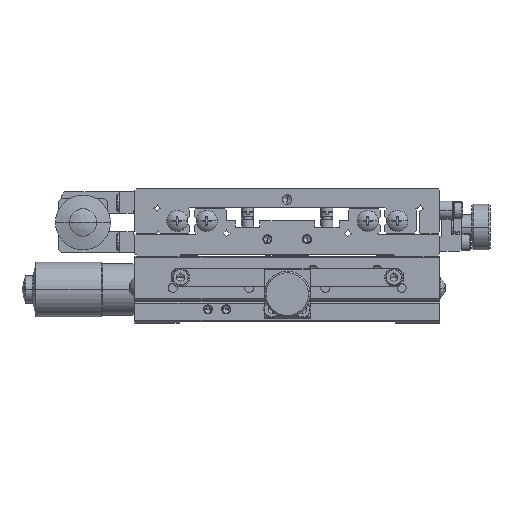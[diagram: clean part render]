
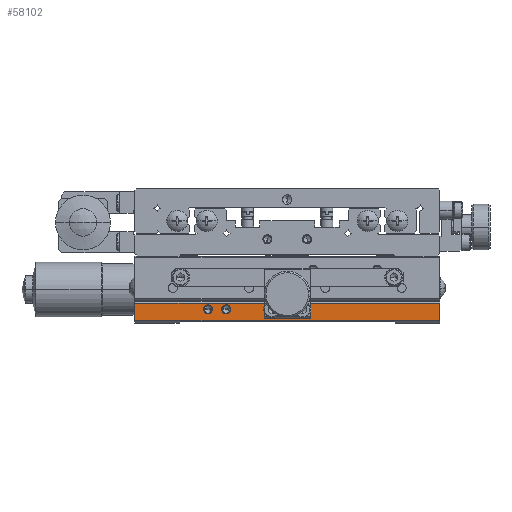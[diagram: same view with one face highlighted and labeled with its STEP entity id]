
A CAD part, left-side view. The second image highlights one B-rep face of the part: STEP entity #58102.
In plain terms, the highlighted planar face has unit normal (-1, 0, 0).
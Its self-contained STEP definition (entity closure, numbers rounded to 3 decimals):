
#19910 = ORIENTED_EDGE ( 'NONE', *, *, #55658, .F. ) ;
#20021 = ORIENTED_EDGE ( 'NONE', *, *, #20025, .F. ) ;
#20025 = EDGE_CURVE ( 'NONE', #55596, #55496, #50650, .T. ) ;
#20029 = ORIENTED_EDGE ( 'NONE', *, *, #55594, .F. ) ;
#20035 = EDGE_LOOP ( 'NONE', ( #20039, #19910 ) ) ;
#20039 = ORIENTED_EDGE ( 'NONE', *, *, #20048, .F. ) ;
#20048 = EDGE_CURVE ( 'NONE', #55659, #55656, #50718, .T. ) ;
#50642 = DIRECTION ( 'NONE',  ( 0., 1., 0. ) ) ;
#50645 = DIRECTION ( 'NONE',  ( -1., 0., 0. ) ) ;
#50647 = CARTESIAN_POINT ( 'NONE',  ( -50., 20., 4.5 ) ) ;
#50649 = AXIS2_PLACEMENT_3D ( 'NONE', #50647, #50645, #50642 ) ;
#50650 = CIRCLE ( 'NONE', #50649, 1.5 ) ;
#50714 = DIRECTION ( 'NONE',  ( 0., 1., 0. ) ) ;
#50715 = DIRECTION ( 'NONE',  ( -1., 0., 0. ) ) ;
#50716 = CARTESIAN_POINT ( 'NONE',  ( -50., 26., 4.5 ) ) ;
#50717 = AXIS2_PLACEMENT_3D ( 'NONE', #50716, #50715, #50714 ) ;
#50718 = CIRCLE ( 'NONE', #50717, 1.5 ) ;
#53214 = EDGE_LOOP ( 'NONE', ( #20021, #20029 ) ) ;
#55496 = VERTEX_POINT ( 'NONE', #104297 ) ;
#55594 = EDGE_CURVE ( 'NONE', #55496, #55596, #104427, .T. ) ;
#55596 = VERTEX_POINT ( 'NONE', #104422 ) ;
#55656 = VERTEX_POINT ( 'NONE', #104538 ) ;
#55658 = EDGE_CURVE ( 'NONE', #55656, #55659, #104532, .T. ) ;
#55659 = VERTEX_POINT ( 'NONE', #104527 ) ;
#57398 = VERTEX_POINT ( 'NONE', #106464 ) ;
#57401 = EDGE_CURVE ( 'NONE', #57398, #57405, #106463, .T. ) ;
#57405 = VERTEX_POINT ( 'NONE', #106457 ) ;
#58063 = EDGE_CURVE ( 'NONE', #58111, #58110, #107081, .T. ) ;
#58065 = ORIENTED_EDGE ( 'NONE', *, *, #58067, .T. ) ;
#58067 = EDGE_CURVE ( 'NONE', #58111, #58087, #107074, .T. ) ;
#58070 = ORIENTED_EDGE ( 'NONE', *, *, #58086, .F. ) ;
#58072 = ORIENTED_EDGE ( 'NONE', *, *, #58073, .T. ) ;
#58073 = EDGE_CURVE ( 'NONE', #58083, #58074, #107070, .T. ) ;
#58074 = VERTEX_POINT ( 'NONE', #107066 ) ;
#58075 = ORIENTED_EDGE ( 'NONE', *, *, #58076, .T. ) ;
#58076 = EDGE_CURVE ( 'NONE', #58074, #57405, #107065, .T. ) ;
#58078 = ORIENTED_EDGE ( 'NONE', *, *, #57401, .F. ) ;
#58080 = ORIENTED_EDGE ( 'NONE', *, *, #58098, .F. ) ;
#58083 = VERTEX_POINT ( 'NONE', #107061 ) ;
#58086 = EDGE_CURVE ( 'NONE', #58083, #58087, #107060, .T. ) ;
#58087 = VERTEX_POINT ( 'NONE', #107056 ) ;
#58093 = VERTEX_POINT ( 'NONE', #107114 ) ;
#58098 = EDGE_CURVE ( 'NONE', #58093, #57398, #107108, .T. ) ;
#58102 = ADVANCED_FACE ( 'NONE', ( #107103, #107102, #107101 ), #107100, .T. ) ;
#58105 = EDGE_LOOP ( 'NONE', ( #58107, #58210, #58065, #58070, #58072, #58075, #58078, #58080 ) ) ;
#58107 = ORIENTED_EDGE ( 'NONE', *, *, #58109, .F. ) ;
#58109 = EDGE_CURVE ( 'NONE', #58110, #58093, #107094, .T. ) ;
#58110 = VERTEX_POINT ( 'NONE', #107090 ) ;
#58111 = VERTEX_POINT ( 'NONE', #107089 ) ;
#58210 = ORIENTED_EDGE ( 'NONE', *, *, #58063, .F. ) ;
#104297 = CARTESIAN_POINT ( 'NONE',  ( -50., 18.5, 4.5 ) ) ;
#104422 = CARTESIAN_POINT ( 'NONE',  ( -50., 21.5, 4.5 ) ) ;
#104423 = DIRECTION ( 'NONE',  ( 0., 1., 0. ) ) ;
#104424 = DIRECTION ( 'NONE',  ( -1., 0., 0. ) ) ;
#104425 = CARTESIAN_POINT ( 'NONE',  ( -50., 20., 4.5 ) ) ;
#104426 = AXIS2_PLACEMENT_3D ( 'NONE', #104425, #104424, #104423 ) ;
#104427 = CIRCLE ( 'NONE', #104426, 1.5 ) ;
#104527 = CARTESIAN_POINT ( 'NONE',  ( -50., 27.5, 4.5 ) ) ;
#104528 = DIRECTION ( 'NONE',  ( 0., 1., 0. ) ) ;
#104529 = DIRECTION ( 'NONE',  ( -1., 0., 0. ) ) ;
#104530 = CARTESIAN_POINT ( 'NONE',  ( -50., 26., 4.5 ) ) ;
#104531 = AXIS2_PLACEMENT_3D ( 'NONE', #104530, #104529, #104528 ) ;
#104532 = CIRCLE ( 'NONE', #104531, 1.5 ) ;
#104538 = CARTESIAN_POINT ( 'NONE',  ( -50., 24.5, 4.5 ) ) ;
#106457 = CARTESIAN_POINT ( 'NONE',  ( -50., -50., 0.8 ) ) ;
#106460 = DIRECTION ( 'NONE',  ( 0., 0., -1. ) ) ;
#106461 = VECTOR ( 'NONE', #106460, 1000. ) ;
#106462 = CARTESIAN_POINT ( 'NONE',  ( -50., -50., 6.5 ) ) ;
#106463 = LINE ( 'NONE', #106462, #106461 ) ;
#106464 = CARTESIAN_POINT ( 'NONE',  ( -50., -50., 6.5 ) ) ;
#107056 = CARTESIAN_POINT ( 'NONE',  ( -50., 7.5, 6.5 ) ) ;
#107057 = DIRECTION ( 'NONE',  ( 0., -1., 0. ) ) ;
#107058 = VECTOR ( 'NONE', #107057, 1000. ) ;
#107059 = CARTESIAN_POINT ( 'NONE',  ( -50., 50., 6.5 ) ) ;
#107060 = LINE ( 'NONE', #107059, #107058 ) ;
#107061 = CARTESIAN_POINT ( 'NONE',  ( -50., 50., 6.5 ) ) ;
#107062 = DIRECTION ( 'NONE',  ( 0., -1., 0. ) ) ;
#107063 = VECTOR ( 'NONE', #107062, 1000. ) ;
#107064 = CARTESIAN_POINT ( 'NONE',  ( -50., 50., 0.8 ) ) ;
#107065 = LINE ( 'NONE', #107064, #107063 ) ;
#107066 = CARTESIAN_POINT ( 'NONE',  ( -50., 50., 0.8 ) ) ;
#107067 = DIRECTION ( 'NONE',  ( 0., 0., -1. ) ) ;
#107068 = VECTOR ( 'NONE', #107067, 1000. ) ;
#107069 = CARTESIAN_POINT ( 'NONE',  ( -50., 50., 6.5 ) ) ;
#107070 = LINE ( 'NONE', #107069, #107068 ) ;
#107071 = DIRECTION ( 'NONE',  ( 0., 0., 1. ) ) ;
#107072 = VECTOR ( 'NONE', #107071, 1000. ) ;
#107073 = CARTESIAN_POINT ( 'NONE',  ( -50., 7.5, 1.5 ) ) ;
#107074 = LINE ( 'NONE', #107073, #107072 ) ;
#107075 = DIRECTION ( 'NONE',  ( 0., -1., 0. ) ) ;
#107076 = VECTOR ( 'NONE', #107075, 1000. ) ;
#107077 = CARTESIAN_POINT ( 'NONE',  ( -50., 7.5, 1.5 ) ) ;
#107081 = LINE ( 'NONE', #107077, #107076 ) ;
#107089 = CARTESIAN_POINT ( 'NONE',  ( -50., 7.5, 1.5 ) ) ;
#107090 = CARTESIAN_POINT ( 'NONE',  ( -50., -7.5, 1.5 ) ) ;
#107091 = DIRECTION ( 'NONE',  ( 0., 0., 1. ) ) ;
#107092 = VECTOR ( 'NONE', #107091, 1000. ) ;
#107093 = CARTESIAN_POINT ( 'NONE',  ( -50., -7.5, 1.5 ) ) ;
#107094 = LINE ( 'NONE', #107093, #107092 ) ;
#107095 = DIRECTION ( 'NONE',  ( 0., -1., 0. ) ) ;
#107096 = DIRECTION ( 'NONE',  ( -1., 0., 0. ) ) ;
#107097 = AXIS2_PLACEMENT_3D ( 'NONE', #107099, #107096, #107095 ) ;
#107099 = CARTESIAN_POINT ( 'NONE',  ( -50., 50., 6.5 ) ) ;
#107100 = PLANE ( 'NONE',  #107097 ) ;
#107101 = FACE_BOUND ( 'NONE', #20035, .T. ) ;
#107102 = FACE_BOUND ( 'NONE', #53214, .T. ) ;
#107103 = FACE_OUTER_BOUND ( 'NONE', #58105, .T. ) ;
#107105 = DIRECTION ( 'NONE',  ( 0., -1., 0. ) ) ;
#107106 = VECTOR ( 'NONE', #107105, 1000. ) ;
#107107 = CARTESIAN_POINT ( 'NONE',  ( -50., 50., 6.5 ) ) ;
#107108 = LINE ( 'NONE', #107107, #107106 ) ;
#107114 = CARTESIAN_POINT ( 'NONE',  ( -50., -7.5, 6.5 ) ) ;
